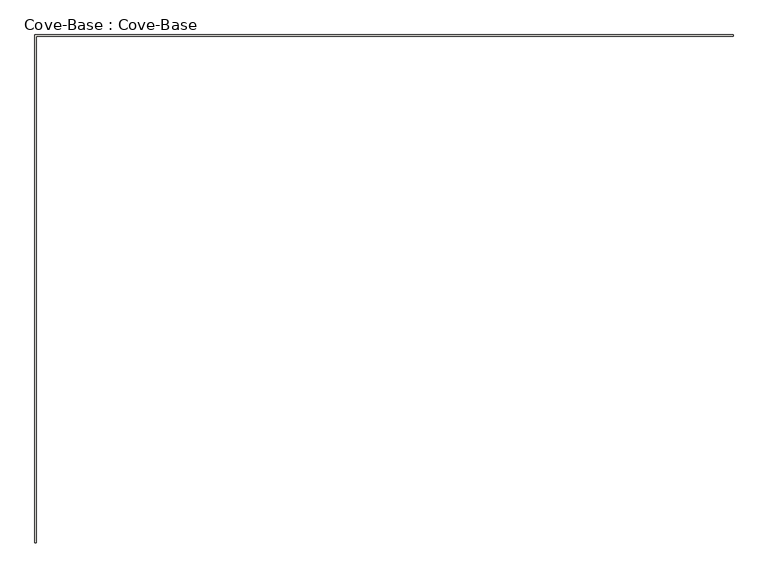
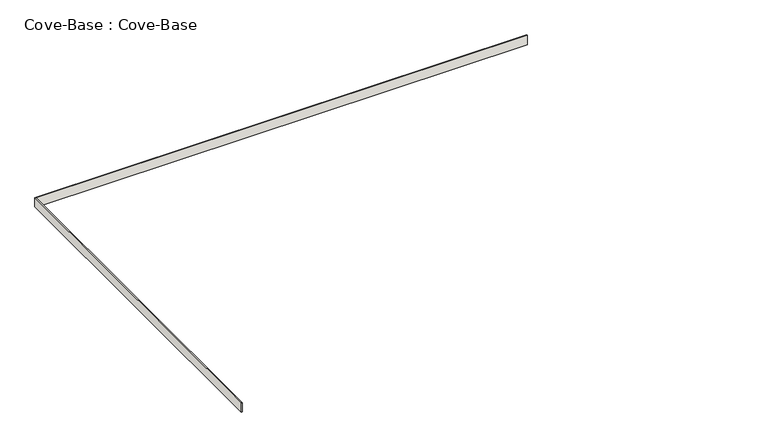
"""IFC4 building model written with IfcOpenShell, lengths in millimetres: wall geometry, Cove-Base : Cove-Base."""

import ifcopenshell
import ifcopenshell.guid

model = None  # the IFC model being written
_history = None  # IfcOwnerHistory: only IFC2X3 demands one
_inside = {}  # id of a spatial element -> (the spatial element, [elements in it])
_under = {}  # id of a project, library or spatial element -> (it, [spatial elements below it])
_declared = {}  # id of a project -> (the project, [libraries it declares])
_typed = {}  # id of a type object -> (the type object, [elements of that type])
_made_of = {}  # id of a material, layer set ... -> (it, [elements and type objects made of it])


def new_model(schema):
    """Start an empty IFC model of exactly this schema.

    Asked for "IFC4X3", IfcOpenShell would pick the latest addendum, in which some entities
    have other attributes; the version numbers below select the first issue.
    IFC2X3 requires an IfcOwnerHistory on every rooted entity: one is made here for all.
    """
    global model, _history
    if schema == "IFC4X3":
        model = ifcopenshell.file(schema_version=(4, 3, 0, 0))
    else:
        model = ifcopenshell.file(schema=schema)
    _inside.clear()
    _under.clear()
    _declared.clear()
    _typed.clear()
    _made_of.clear()
    _history = None
    if model.schema == "IFC2X3":
        org = make("IfcOrganization", Name="unknown")
        user = make(
            "IfcPersonAndOrganization",
            ThePerson=make("IfcPerson", FamilyName="unknown"),
            TheOrganization=org,
        )
        app = make(
            "IfcApplication",
            ApplicationDeveloper=org,
            Version="unknown",
            ApplicationFullName="unknown",
            ApplicationIdentifier="unknown",
        )
        _history = make(
            "IfcOwnerHistory",
            OwningUser=user,
            OwningApplication=app,
            ChangeAction="ADDED",
            CreationDate=0,
        )
    return model


def make(cls, **values):
    """One entity of the class cls with the attributes given. An attribute that is None is left unset."""
    return model.create_entity(
        cls, **{name: value for name, value in values.items() if value is not None}
    )


def rooted(cls, **values):
    """An entity with a GlobalId (a new one), such as an element, a storey or a relation."""
    return make(cls, GlobalId=ifcopenshell.guid.new(), OwnerHistory=_history, **values)


def si_unit(unit_type, name, prefix=None):
    """IfcSIUnit, for example si_unit("LENGTHUNIT", "METRE", prefix="MILLI")."""
    return make("IfcSIUnit", UnitType=unit_type, Prefix=prefix, Name=name)


def assignment(units):
    """IfcUnitAssignment: the units of a project."""
    return None if units is None else make("IfcUnitAssignment", Units=units)


def point(xyz):
    """IfcCartesianPoint."""
    return None if xyz is None else make("IfcCartesianPoint", Coordinates=xyz)


def direction(xyz):
    """IfcDirection."""
    return None if xyz is None else make("IfcDirection", DirectionRatios=xyz)


def frame(location, z_axis=None, x_axis=None):
    """IfcAxis2Placement3D, a coordinate frame: its origin and axes. An axis left out is left unset."""
    return make(
        "IfcAxis2Placement3D",
        Location=point(location),
        Axis=direction(z_axis),
        RefDirection=direction(x_axis),
    )


def origin():
    """The frame at (0, 0, 0) with its axes left unset."""
    return frame((0.0, 0.0, 0.0))


def origin_with_axes():
    """The frame at (0, 0, 0) with the z axis (0, 0, 1) and the x axis (1, 0, 0) written out."""
    return frame((0.0, 0.0, 0.0), z_axis=(0.0, 0.0, 1.0), x_axis=(1.0, 0.0, 0.0))


def place(relative_to, where):
    """IfcLocalPlacement: puts the frame where relative to a parent placement (None: the world)."""
    return make(
        "IfcLocalPlacement", PlacementRelTo=relative_to, RelativePlacement=where
    )


def context(
    kind, dimensions, precision=None, world=None, true_north=None, identifier=None
):
    """IfcGeometricRepresentationContext, for example the 3D "Model" context."""
    return make(
        "IfcGeometricRepresentationContext",
        ContextIdentifier=identifier,
        ContextType=kind,
        CoordinateSpaceDimension=dimensions,
        Precision=precision,
        WorldCoordinateSystem=world,
        TrueNorth=true_north,
    )


def project(units=None, contexts=None):
    """IfcProject with its units and contexts."""
    return rooted(
        "IfcProject",
        Name="project",
        RepresentationContexts=contexts,
        UnitsInContext=assignment(units),
    )


def spatial(cls, under=None, at=None, **own):
    """A site, building, storey or space (cls), placed at a placement, below another one or the project."""
    s = rooted(cls, ObjectPlacement=at, **own)
    if under is not None:
        _under.setdefault(under.id(), (under, []))[1].append(s)
    return s


def polyline(points):
    """IfcPolyline through the points."""
    return make("IfcPolyline", Points=[point(p) for p in points])


def outline(outer, holes=None, kind="AREA"):
    """IfcArbitraryClosedProfileDef: a profile drawn as a closed curve; with holes, ...WithVoids."""
    if holes is None:
        return make("IfcArbitraryClosedProfileDef", ProfileType=kind, OuterCurve=outer)
    return make(
        "IfcArbitraryProfileDefWithVoids",
        ProfileType=kind,
        OuterCurve=outer,
        InnerCurves=holes,
    )


def extrude(swept, where, along, depth):
    """IfcExtrudedAreaSolid: the profile swept, set in the frame where, extruded along a direction by depth."""
    return make(
        "IfcExtrudedAreaSolid",
        SweptArea=swept,
        Position=where,
        ExtrudedDirection=direction(along),
        Depth=depth,
    )


def shape(context_of_items, identifier, shape_type, items):
    """IfcShapeRepresentation: the items that make up one representation, for example the "Body"."""
    return make(
        "IfcShapeRepresentation",
        ContextOfItems=context_of_items,
        RepresentationIdentifier=identifier,
        RepresentationType=shape_type,
        Items=items,
    )


def source(mapping_origin, context_of_items, identifier, shape_type, items):
    """IfcRepresentationMap: a shape defined once, which mapped items show again and again."""
    return make(
        "IfcRepresentationMap",
        MappingOrigin=mapping_origin,
        MappedRepresentation=shape(context_of_items, identifier, shape_type, items),
    )


def transform(
    local_origin,
    x_axis=None,
    y_axis=None,
    z_axis=None,
    scale=None,
    scale2=None,
    scale3=None,
    uniform=True,
):
    """IfcCartesianTransformationOperator3D, or its non-uniform kind. x_axis, y_axis, z_axis: its Axis1, 2, 3."""
    if uniform:
        return make(
            "IfcCartesianTransformationOperator3D",
            Axis1=direction(x_axis),
            Axis2=direction(y_axis),
            LocalOrigin=point(local_origin),
            Scale=scale,
            Axis3=direction(z_axis),
        )
    return make(
        "IfcCartesianTransformationOperator3DnonUniform",
        Axis1=direction(x_axis),
        Axis2=direction(y_axis),
        LocalOrigin=point(local_origin),
        Scale=scale,
        Axis3=direction(z_axis),
        Scale2=scale2,
        Scale3=scale3,
    )


def mapped(mapping_source, mapping_target):
    """IfcMappedItem: shows the shape of a source again, moved by a transform."""
    return make(
        "IfcMappedItem", MappingSource=mapping_source, MappingTarget=mapping_target
    )


def made_of(thing, what):
    """Note that an element or type object is made of a material, layer set ...; save() writes the relation."""
    if what is not None:
        _made_of.setdefault(what.id(), (what, []))[1].append(thing)
    return thing


def element(
    cls,
    number,
    at=None,
    inside=None,
    cuts=None,
    type_object=None,
    material=None,
    context=None,
    identifier="Body",
    shape_type=None,
    held_by="IfcProductDefinitionShape",
    body=None,
    shapes=None,
    **own,
):
    """One element of the class cls, such as IfcWall. Its Tag is "e" and its number.

    at: its placement. inside: the storey or other place that contains it. cuts: it is an
    opening in that element (IfcRelVoidsElement). A single representation is given by context,
    identifier, shape_type and body (its items); several are given by shapes. held_by: the class
    of the entity that holds the representations. save() writes the other relations.
    """
    e = rooted(cls, Tag="e%d" % number, ObjectPlacement=at, **own)
    if body is not None:
        shapes = [shape(context, identifier, shape_type, body)]
    if shapes is not None:
        e.Representation = make(held_by, Representations=shapes)
    if inside is not None:
        _inside.setdefault(inside.id(), (inside, []))[1].append(e)
    if cuts is not None:
        rooted(
            "IfcRelVoidsElement", RelatingBuildingElement=cuts, RelatedOpeningElement=e
        )
    if type_object is not None:
        _typed.setdefault(type_object.id(), (type_object, []))[1].append(e)
    return made_of(e, material)


def aggregate(whole, parts):
    """IfcRelAggregates: a whole, such as a stair, and the parts it consists of."""
    return rooted("IfcRelAggregates", RelatingObject=whole, RelatedObjects=parts)


def save(model, path):
    """Write the relations noted so far, then the file.

    IfcRelAggregates (storeys below a building ...), IfcRelContainedInSpatialStructure (elements
    in a storey), IfcRelDefinesByType, IfcRelAssociatesMaterial and IfcRelDeclares: one each for
    every whole, place, type object, material and project.
    """
    for whole, parts in _under.values():
        aggregate(whole, parts)
    for where, things in _inside.values():
        rooted(
            "IfcRelContainedInSpatialStructure",
            RelatedElements=things,
            RelatingStructure=where,
        )
    for kind, things in _typed.values():
        rooted("IfcRelDefinesByType", RelatedObjects=things, RelatingType=kind)
    for what, things in _made_of.values():
        rooted("IfcRelAssociatesMaterial", RelatedObjects=things, RelatingMaterial=what)
    for by, libraries in _declared.values():
        rooted("IfcRelDeclares", RelatingContext=by, RelatedDefinitions=libraries)
    model.write(path)


def cove_base_cove_base_009a1cfd(model_context):
    return source(origin(), model_context, "Body", "SweptSolid", [
        extrude(outline(polyline([(-15032.4081895, 33743.5243152), (-15032.4081895, 30030.3618152), (-15041.9331895, 30030.3618152), (-15041.9331895, 33753.0493152), (-9923.0615108, 33753.0493152), (-9923.0615108, 33743.5243152), (-15032.4081895, 33743.5243152)])), origin_with_axes(), (0.0, 0.0, 1.0), 101.6),
    ])


if __name__ == "__main__":
    model = new_model("IFC4")
    model_context = context("Model", 3, world=origin())
    ifc_project = project(units=[si_unit("LENGTHUNIT", "METRE", prefix="MILLI")], contexts=[model_context])
    site = spatial("IfcSite", under=ifc_project)
    building = spatial("IfcBuilding", under=site)
    placement = place(None, origin())
    cove_base_cove_base_shape = cove_base_cove_base_009a1cfd(model_context)
    element("IfcWall", 1, ObjectType="Cove-Base : Cove-Base", at=placement, inside=building, context=model_context, shape_type="MappedRepresentation", body=[
        mapped(cove_base_cove_base_shape, transform((0.0, 0.0, 0.0), x_axis=(1.0, 0.0, 0.0), y_axis=(0.0, 1.0, 0.0), z_axis=(0.0, 0.0, 1.0))),
    ])
    save(model, "model.ifc")
